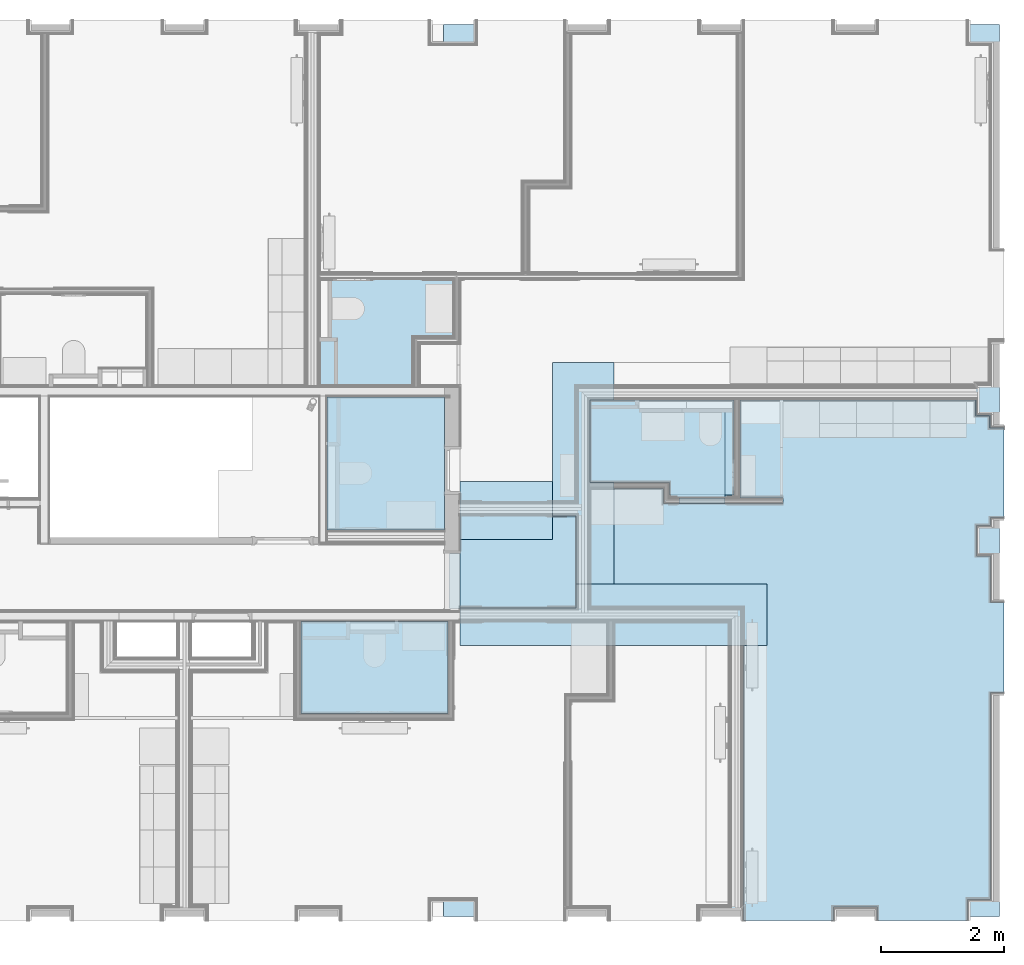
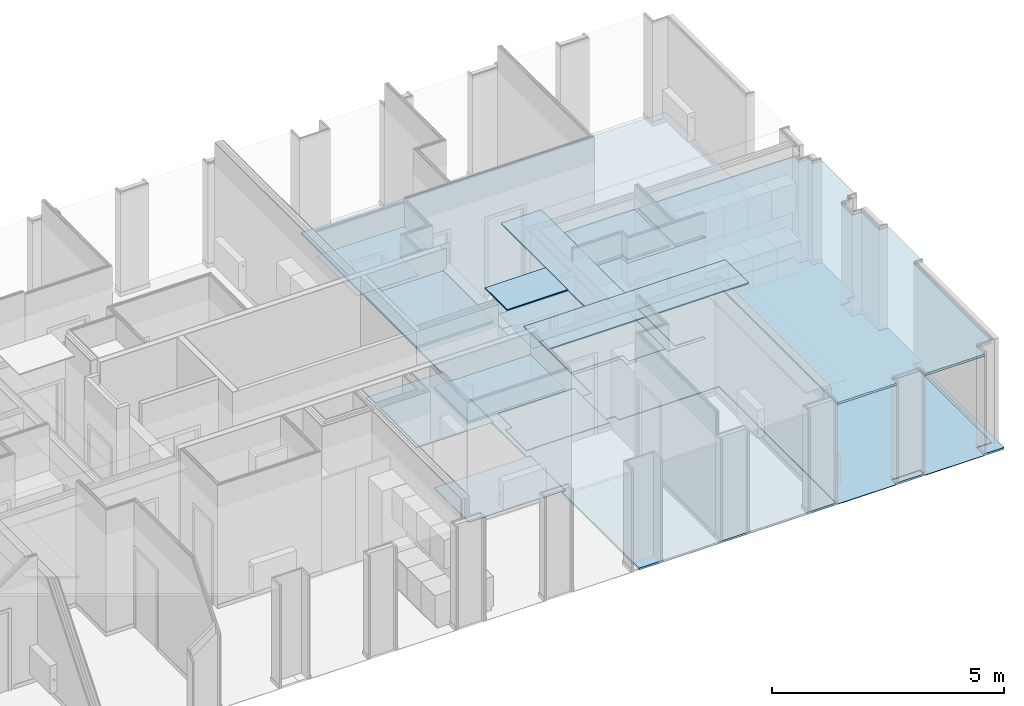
# One storey, part 47 of 65: 24 slabs.
"""IFC2X3 building model written with IfcOpenShell, lengths in metres."""

from ifc_helpers import new_model, entity, si_unit, converted_unit, derived_unit, money_unit, direction, frame, origin_with_axes, place, context, subcontext, project, spatial, faceted_brep, material, type_object, element, save


model = new_model("IFC2X3")

# Units and contexts
model_context = context("Model", 3, precision=1e-05, world=origin_with_axes(), true_north=direction((0.0, 1.0)))
body_context = subcontext(model_context, "Body", "Model", "MODEL_VIEW", scale=1.0)
ifc_project = project(units=[si_unit("LENGTHUNIT", "METRE"), si_unit("AREAUNIT", "SQUARE_METRE"), si_unit("VOLUMEUNIT", "CUBIC_METRE"), si_unit("ABSORBEDDOSEUNIT", "GRAY"), si_unit("AMOUNTOFSUBSTANCEUNIT", "MOLE"), si_unit("DOSEEQUIVALENTUNIT", "SIEVERT"), si_unit("ELECTRICCAPACITANCEUNIT", "FARAD"), si_unit("ELECTRICCHARGEUNIT", "COULOMB"), si_unit("ELECTRICCONDUCTANCEUNIT", "SIEMENS"), si_unit("ELECTRICCURRENTUNIT", "AMPERE"), si_unit("ELECTRICRESISTANCEUNIT", "OHM"), si_unit("ELECTRICVOLTAGEUNIT", "VOLT"), si_unit("ENERGYUNIT", "JOULE"), si_unit("FORCEUNIT", "NEWTON"), si_unit("FREQUENCYUNIT", "HERTZ"), si_unit("ILLUMINANCEUNIT", "LUX"), si_unit("INDUCTANCEUNIT", "HENRY"), si_unit("LUMINOUSFLUXUNIT", "LUMEN"), si_unit("LUMINOUSINTENSITYUNIT", "CANDELA"), si_unit("MAGNETICFLUXDENSITYUNIT", "TESLA"), si_unit("MAGNETICFLUXUNIT", "WEBER"), si_unit("MASSUNIT", "GRAM"), converted_unit("PLANEANGLEUNIT", "degree", entity("IfcReal", 0.0174532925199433), si_unit("PLANEANGLEUNIT", "RADIAN"), dimensions=[0, 0, 0, 0, 0, 0, 0]), si_unit("POWERUNIT", "WATT"), si_unit("PRESSUREUNIT", "PASCAL"), si_unit("RADIOACTIVITYUNIT", "BECQUEREL"), si_unit("SOLIDANGLEUNIT", "STERADIAN"), si_unit("THERMODYNAMICTEMPERATUREUNIT", "KELVIN"), si_unit("TIMEUNIT", "SECOND"), derived_unit("ACCELERATIONUNIT", [(si_unit("LENGTHUNIT", "METRE"), 1), (si_unit("TIMEUNIT", "SECOND"), -2)]), derived_unit("ANGULARVELOCITYUNIT", [(converted_unit("PLANEANGLEUNIT", "degree", entity("IfcReal", 0.0174532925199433), si_unit("PLANEANGLEUNIT", "RADIAN"), dimensions=[0, 0, 0, 0, 0, 0, 0]), 1), (si_unit("TIMEUNIT", "SECOND"), -1)]), derived_unit("CURVATUREUNIT", [(converted_unit("PLANEANGLEUNIT", "degree", entity("IfcReal", 0.0174532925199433), si_unit("PLANEANGLEUNIT", "RADIAN"), dimensions=[0, 0, 0, 0, 0, 0, 0]), 1), (si_unit("LENGTHUNIT", "METRE"), -1)]), derived_unit("DYNAMICVISCOSITYUNIT", [(si_unit("PRESSUREUNIT", "PASCAL"), 1), (si_unit("TIMEUNIT", "SECOND"), 1)]), derived_unit("HEATFLUXDENSITYUNIT", [(si_unit("POWERUNIT", "WATT"), 1), (si_unit("LENGTHUNIT", "METRE"), -2)]), derived_unit("HEATINGVALUEUNIT", [(si_unit("ENERGYUNIT", "JOULE"), 1), (si_unit("MASSUNIT", "GRAM"), -1)]), derived_unit("INTEGERCOUNTRATEUNIT", [(si_unit("TIMEUNIT", "SECOND"), -1)]), derived_unit("IONCONCENTRATIONUNIT", [(si_unit("MASSUNIT", "GRAM"), 1), (si_unit("VOLUMEUNIT", "CUBIC_METRE"), -1)]), derived_unit("ISOTHERMALMOISTURECAPACITYUNIT", [(si_unit("VOLUMEUNIT", "CUBIC_METRE"), 1), (si_unit("MASSUNIT", "GRAM"), -1)]), derived_unit("KINEMATICVISCOSITYUNIT", [(si_unit("AREAUNIT", "SQUARE_METRE"), 1), (si_unit("TIMEUNIT", "SECOND"), -1)]), derived_unit("LINEARFORCEUNIT", [(si_unit("FORCEUNIT", "NEWTON"), 1), (si_unit("LENGTHUNIT", "METRE"), -1)]), derived_unit("LINEARMOMENTUNIT", [(si_unit("FORCEUNIT", "NEWTON"), 1), (si_unit("LENGTHUNIT", "METRE"), -1)]), derived_unit("LINEARSTIFFNESSUNIT", [(si_unit("FORCEUNIT", "NEWTON"), 1), (si_unit("LENGTHUNIT", "METRE"), -1)]), derived_unit("LINEARVELOCITYUNIT", [(si_unit("LENGTHUNIT", "METRE"), 1), (si_unit("TIMEUNIT", "SECOND"), -1)]), derived_unit("LUMINOUSINTENSITYDISTRIBUTIONUNIT", [(si_unit("LUMINOUSINTENSITYUNIT", "CANDELA"), 1), (si_unit("LUMINOUSFLUXUNIT", "LUMEN"), -1)]), derived_unit("MASSDENSITYUNIT", [(si_unit("MASSUNIT", "GRAM"), 1), (si_unit("VOLUMEUNIT", "CUBIC_METRE"), -1)]), derived_unit("MASSFLOWRATEUNIT", [(si_unit("MASSUNIT", "GRAM"), 1), (si_unit("TIMEUNIT", "SECOND"), -1)]), derived_unit("MASSPERLENGTHUNIT", [(si_unit("MASSUNIT", "GRAM"), 1), (si_unit("LENGTHUNIT", "METRE"), -1)]), derived_unit("MODULUSOFELASTICITYUNIT", [(si_unit("FORCEUNIT", "NEWTON"), 1), (si_unit("AREAUNIT", "SQUARE_METRE"), -1)]), derived_unit("MODULUSOFLINEARSUBGRADEREACTIONUNIT", [(si_unit("FORCEUNIT", "NEWTON"), 1), (si_unit("LENGTHUNIT", "METRE"), -2)]), derived_unit("MODULUSOFROTATIONALSUBGRADEREACTIONUNIT", [(si_unit("FORCEUNIT", "NEWTON"), 1), (si_unit("LENGTHUNIT", "METRE"), 1)]), derived_unit("MODULUSOFSUBGRADEREACTIONUNIT", [(si_unit("FORCEUNIT", "NEWTON"), 1), (si_unit("VOLUMEUNIT", "CUBIC_METRE"), -1)]), derived_unit("MOISTUREDIFFUSIVITYUNIT", [(si_unit("VOLUMEUNIT", "CUBIC_METRE"), 1), (si_unit("TIMEUNIT", "SECOND"), -1)]), derived_unit("MOLECULARWEIGHTUNIT", [(si_unit("MASSUNIT", "GRAM"), 1), (si_unit("AMOUNTOFSUBSTANCEUNIT", "MOLE"), -1)]), derived_unit("PLANARFORCEUNIT", [(si_unit("FORCEUNIT", "NEWTON"), 1), (si_unit("LENGTHUNIT", "METRE"), -2)]), derived_unit("ROTATIONALFREQUENCYUNIT", [(si_unit("TIMEUNIT", "SECOND"), -1)]), derived_unit("ROTATIONALMASSUNIT", [(si_unit("MASSUNIT", "GRAM"), 1), (si_unit("LENGTHUNIT", "METRE"), 2)]), derived_unit("ROTATIONALSTIFFNESSUNIT", [(si_unit("FORCEUNIT", "NEWTON"), 1), (si_unit("LENGTHUNIT", "METRE"), 1), (converted_unit("PLANEANGLEUNIT", "degree", entity("IfcReal", 0.0174532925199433), si_unit("PLANEANGLEUNIT", "RADIAN"), dimensions=[0, 0, 0, 0, 0, 0, 0]), -1)]), derived_unit("SECTIONAREAINTEGRALUNIT", [(si_unit("LENGTHUNIT", "METRE"), 5)]), derived_unit("SECTIONMODULUSUNIT", [(si_unit("LENGTHUNIT", "METRE"), 3)]), derived_unit("SHEARMODULUSUNIT", [(si_unit("FORCEUNIT", "NEWTON"), 1), (si_unit("AREAUNIT", "SQUARE_METRE"), -1)]), derived_unit("SOUNDPOWERUNIT", [(si_unit("ENERGYUNIT", "JOULE"), 1), (si_unit("TIMEUNIT", "SECOND"), -1)]), derived_unit("SPECIFICHEATCAPACITYUNIT", [(si_unit("FORCEUNIT", "NEWTON"), 1), (si_unit("MASSUNIT", "GRAM"), -1), (si_unit("THERMODYNAMICTEMPERATUREUNIT", "KELVIN"), -1)]), derived_unit("TEMPERATUREGRADIENTUNIT", [(si_unit("THERMODYNAMICTEMPERATUREUNIT", "KELVIN"), 1), (si_unit("LENGTHUNIT", "METRE"), -1)]), derived_unit("THERMALADMITTANCEUNIT", [(si_unit("POWERUNIT", "WATT"), 1), (si_unit("AREAUNIT", "SQUARE_METRE"), -1), (si_unit("THERMODYNAMICTEMPERATUREUNIT", "KELVIN"), -1)]), derived_unit("THERMALCONDUCTANCEUNIT", [(si_unit("POWERUNIT", "WATT"), 1), (si_unit("LENGTHUNIT", "METRE"), -1), (si_unit("THERMODYNAMICTEMPERATUREUNIT", "KELVIN"), -1)]), derived_unit("THERMALEXPANSIONCOEFFICIENTUNIT", [(si_unit("THERMODYNAMICTEMPERATUREUNIT", "KELVIN"), -1)]), derived_unit("THERMALRESISTANCEUNIT", [(si_unit("AREAUNIT", "SQUARE_METRE"), 1), (si_unit("POWERUNIT", "WATT"), -1)]), derived_unit("THERMALTRANSMITTANCEUNIT", [(si_unit("POWERUNIT", "WATT"), 1), (si_unit("AREAUNIT", "SQUARE_METRE"), -1), (si_unit("THERMODYNAMICTEMPERATUREUNIT", "KELVIN"), -1)]), derived_unit("TORQUEUNIT", [(si_unit("FORCEUNIT", "NEWTON"), 1), (si_unit("LENGTHUNIT", "METRE"), 1)]), derived_unit("VAPORPERMEABILITYUNIT", [(si_unit("MASSUNIT", "GRAM"), 1), (si_unit("TIMEUNIT", "SECOND"), -1)]), derived_unit("VOLUMETRICFLOWRATEUNIT", [(si_unit("VOLUMEUNIT", "CUBIC_METRE"), 1), (si_unit("TIMEUNIT", "SECOND"), -1)]), derived_unit("WARPINGCONSTANTUNIT", [(si_unit("LENGTHUNIT", "METRE"), 6)]), derived_unit("WARPINGMOMENTUNIT", [(si_unit("FORCEUNIT", "NEWTON"), 1), (si_unit("LENGTHUNIT", "METRE"), 2)]), money_unit("GBP")], contexts=[model_context])

# Site, building, storey
site_placement = place(None, origin_with_axes())
site = spatial("IfcSite", under=ifc_project, at=site_placement, Name="Site", CompositionType="ELEMENT")
building_placement = place(site_placement, origin_with_axes())
building = spatial("IfcBuilding", under=site, at=building_placement, Name="Building01", CompositionType="ELEMENT")
storey_placement = place(building_placement, frame((0.0, 0.0, 8.64), z_axis=(0.0, 0.0, 1.0), x_axis=(1.0, 0.0, 0.0)))
storey = spatial("IfcBuildingStorey", under=building, at=storey_placement, Name="2F", CompositionType="ELEMENT", Elevation=8.64)

# Slabs
ifc_material_1 = material(Name="A_BSUK_CeilingSoffitFinishes_Suspended")
slab_type_1 = type_object("IfcSlabType", Name="A-FloorsSlabs A_BSUK_Slabs", PredefinedType="FLOOR")
placement = place(storey_placement, frame((0.0, 0.0, -8.64), z_axis=(0.0, 0.0, 1.0), x_axis=(1.0, 0.0, 0.0)))
element("IfcSlab", 1, at=placement, inside=storey, type_object=slab_type_1, material=ifc_material_1, Name="A-FloorsSlabs A_BSUK_Slabs", ObjectType="CompoundSlabLeaf", context=body_context, shape_type="Brep", body=[
    faceted_brep([(18.0, 6.705, 11.255), (18.0, 6.705, 11.27), (19.897661, 6.705, 11.27), (19.897661, 6.705, 11.255), (18.0, 5.205, 11.255), (18.0, 5.205, 11.27), (19.897661, 5.205, 11.255), (19.897661, 5.205, 11.27)], [[[0, 1, 2, 3]], [[4, 5, 1, 0]], [[6, 7, 5, 4]], [[3, 2, 7, 6]], [[1, 5, 7, 2]], [[3, 6, 4, 0]]]),
])
ifc_material_2 = material(Name="A_BSUK_InternalFinishes_FloorScreed")
element("IfcSlab", 2, at=placement, inside=storey, type_object=slab_type_1, material=ifc_material_2, Name="A-FloorsSlabs A_BSUK_Slabs", ObjectType="CompoundSlabLeaf", context=body_context, shape_type="Brep", body=[
    faceted_brep([(17.73, 14.73, 8.59), (17.73, 14.73, 8.64), (26.81, 14.73, 8.64), (26.81, 14.73, 8.59), (17.73, 0.17, 8.59), (17.73, 0.17, 8.64), (26.81, 0.17, 8.59), (26.81, 0.17, 8.64)], [[[0, 1, 2, 3]], [[4, 5, 1, 0]], [[6, 7, 5, 4]], [[3, 2, 7, 6]], [[1, 5, 7, 2]], [[3, 6, 4, 0]]]),
])
ifc_material_3 = material(Name="A_BSUK_ExpandedPolystyreneBoards")
element("IfcSlab", 3, at=placement, inside=storey, type_object=slab_type_1, material=ifc_material_3, Name="A-FloorsSlabs A_BSUK_Slabs", ObjectType="CompoundSlabLeaf", context=body_context, shape_type="Brep", body=[
    faceted_brep([(18.0, 6.69, 8.64), (18.0, 6.69, 8.643), (19.897661, 6.69, 8.643), (19.897661, 6.69, 8.64), (18.0, 5.205, 8.64), (18.0, 5.205, 8.643), (19.897661, 5.205, 8.64), (19.897661, 5.205, 8.643)], [[[0, 1, 2, 3]], [[4, 5, 1, 0]], [[6, 7, 5, 4]], [[3, 2, 7, 6]], [[1, 5, 7, 2]], [[3, 6, 4, 0]]]),
])
element("IfcSlab", 4, at=placement, inside=storey, type_object=slab_type_1, material=ifc_material_3, Name="A-FloorsSlabs A_BSUK_Slabs", ObjectType="CompoundSlabLeaf", context=body_context, shape_type="Brep", body=[
    faceted_brep([(20.122661, 6.357147, 8.64), (20.122661, 6.357147, 8.643), (20.122661, 8.595, 8.643), (20.122661, 8.595, 8.64), (19.897661, 6.357147, 8.64), (19.897661, 6.357147, 8.643), (19.897661, 5.357147, 8.64), (19.897661, 5.357147, 8.643), (20.122661, 5.357147, 8.64), (20.122661, 5.357147, 8.643), (20.122661, 5.205, 8.64), (20.122661, 5.205, 8.643), (22.625, 5.205, 8.64), (22.625, 5.205, 8.643), (22.625, 0.1, 8.64), (22.625, 0.1, 8.643), (24.095, 0.1, 8.64), (24.095, 0.1, 8.643), (24.095, 0.318, 8.64), (24.095, 0.318, 8.643), (24.815, 0.318, 8.64), (24.815, 0.318, 8.643), (24.815, 0.1, 8.64), (24.815, 0.1, 8.643), (26.285, 0.1, 8.64), (26.285, 0.1, 8.643), (26.285, 0.448, 8.64), (26.285, 0.448, 8.643), (26.662, 0.448, 8.64), (26.662, 0.448, 8.643), (26.662, 3.82218, 8.64), (26.662, 3.82218, 8.643), (26.88, 3.82218, 8.64), (26.88, 3.82218, 8.643), (26.88, 5.29218, 8.64), (26.88, 5.29218, 8.643), (26.662, 5.29218, 8.64), (26.662, 5.29218, 8.643), (26.662, 6.052, 8.64), (26.662, 6.052, 8.643), (26.432, 6.052, 8.64), (26.432, 6.052, 8.643), (26.432, 6.548, 8.64), (26.432, 6.548, 8.643), (26.662, 6.548, 8.64), (26.662, 6.548, 8.643), (26.662, 6.682326, 8.64), (26.662, 6.682326, 8.643), (26.88, 6.682326, 8.64), (26.88, 6.682326, 8.643), (26.88, 8.152326, 8.64), (26.88, 8.152326, 8.643), (26.662, 8.152326, 8.64), (26.662, 8.152326, 8.643), (26.662, 8.352, 8.64), (26.662, 8.352, 8.643), (26.432, 8.352, 8.64), (26.432, 8.352, 8.643), (26.432, 8.595, 8.64), (26.432, 8.595, 8.643)], [[[0, 1, 2, 3]], [[4, 5, 1, 0]], [[6, 7, 5, 4]], [[8, 9, 7, 6]], [[10, 11, 9, 8]], [[12, 13, 11, 10]], [[14, 15, 13, 12]], [[16, 17, 15, 14]], [[18, 19, 17, 16]], [[20, 21, 19, 18]], [[22, 23, 21, 20]], [[24, 25, 23, 22]], [[26, 27, 25, 24]], [[28, 29, 27, 26]], [[30, 31, 29, 28]], [[32, 33, 31, 30]], [[34, 35, 33, 32]], [[36, 37, 35, 34]], [[38, 39, 37, 36]], [[40, 41, 39, 38]], [[42, 43, 41, 40]], [[44, 45, 43, 42]], [[46, 47, 45, 44]], [[48, 49, 47, 46]], [[50, 51, 49, 48]], [[52, 53, 51, 50]], [[54, 55, 53, 52]], [[56, 57, 55, 54]], [[58, 59, 57, 56]], [[3, 2, 59, 58]], [[1, 5, 7, 9, 11, 13, 15, 17, 19, 21, 23, 25, 27, 29, 31, 33, 35, 37, 39, 41, 43, 45, 47, 49, 51, 53, 55, 57, 59, 2]], [[3, 58, 56, 54, 52, 50, 48, 46, 44, 42, 40, 38, 36, 34, 32, 30, 28, 26, 24, 22, 20, 18, 16, 14, 12, 10, 8, 6, 4, 0]]]),
])
ifc_material_4 = material(Name="A_BSUK_Ceramic_FloorTiles")
element("IfcSlab", 5, at=placement, inside=storey, type_object=slab_type_1, material=ifc_material_4, Name="A-FloorsSlabs A_BSUK_Slabs", ObjectType="CompoundSlabLeaf", context=body_context, shape_type="Brep", body=[
    faceted_brep([(15.83, 6.475, 8.643), (15.83, 6.475, 8.655), (15.83, 8.65, 8.655), (15.83, 8.65, 8.643), (17.75, 6.475, 8.643), (17.75, 6.475, 8.655), (17.75, 8.65, 8.643), (17.75, 8.65, 8.655)], [[[0, 1, 2, 3]], [[4, 5, 1, 0]], [[6, 7, 5, 4]], [[3, 2, 7, 6]], [[1, 5, 7, 2]], [[3, 6, 4, 0]]]),
])
ifc_material_5 = material(Name="A_BSUK_Parquet_Floor")
element("IfcSlab", 6, at=placement, inside=storey, type_object=slab_type_1, material=ifc_material_5, Name="A-FloorsSlabs A_BSUK_Slabs", ObjectType="CompoundSlabLeaf", context=body_context, shape_type="Brep", body=[
    faceted_brep([(19.897661, 5.357147, 8.643), (19.897661, 5.357147, 8.655), (19.897661, 6.357147, 8.655), (19.897661, 6.357147, 8.643), (20.122661, 5.357147, 8.643), (20.122661, 5.357147, 8.655), (20.122661, 5.205, 8.643), (20.122661, 5.205, 8.655), (22.625, 5.205, 8.643), (22.625, 5.205, 8.655), (22.625, 0.1, 8.643), (22.625, 0.1, 8.655), (24.095, 0.1, 8.643), (24.095, 0.1, 8.655), (24.095, 0.318, 8.643), (24.095, 0.318, 8.655), (24.815, 0.318, 8.643), (24.815, 0.318, 8.655), (24.815, 0.1, 8.643), (24.815, 0.1, 8.655), (26.285, 0.1, 8.643), (26.285, 0.1, 8.655), (26.285, 0.448, 8.643), (26.285, 0.448, 8.655), (26.662, 0.448, 8.643), (26.662, 0.448, 8.655), (26.662, 3.82218, 8.643), (26.662, 3.82218, 8.655), (26.88, 3.82218, 8.643), (26.88, 3.82218, 8.655), (26.88, 5.29218, 8.643), (26.88, 5.29218, 8.655), (26.662, 5.29218, 8.643), (26.662, 5.29218, 8.655), (26.662, 6.052, 8.643), (26.662, 6.052, 8.655), (26.432, 6.052, 8.643), (26.432, 6.052, 8.655), (26.432, 6.548, 8.643), (26.432, 6.548, 8.655), (26.662, 6.548, 8.643), (26.662, 6.548, 8.655), (26.662, 6.682326, 8.643), (26.662, 6.682326, 8.655), (26.88, 6.682326, 8.643), (26.88, 6.682326, 8.655), (26.88, 8.152326, 8.643), (26.88, 8.152326, 8.655), (26.662, 8.152326, 8.643), (26.662, 8.152326, 8.655), (26.662, 8.352, 8.643), (26.662, 8.352, 8.655), (26.432, 8.352, 8.643), (26.432, 8.352, 8.655), (26.432, 8.595, 8.643), (26.432, 8.595, 8.655), (22.571661, 8.595, 8.643), (22.571661, 8.595, 8.655), (22.571661, 7.0, 8.643), (22.571661, 7.0, 8.655), (23.271529, 7.0, 8.643), (23.271529, 7.0, 8.655), (23.271529, 6.905, 8.643), (23.271529, 6.905, 8.655), (22.326661, 6.905, 8.643), (22.326661, 6.905, 8.655), (22.326661, 7.0, 8.643), (22.326661, 7.0, 8.655), (21.576661, 7.0, 8.643), (21.576661, 7.0, 8.655), (21.576661, 6.905, 8.643), (21.576661, 6.905, 8.655), (21.322661, 6.905, 8.643), (21.322661, 6.905, 8.655), (21.322661, 7.155, 8.643), (21.322661, 7.155, 8.655), (20.122661, 7.155, 8.643), (20.122661, 7.155, 8.655), (20.122661, 6.905, 8.643), (20.122661, 6.905, 8.655), (20.122661, 6.357147, 8.643), (20.122661, 6.357147, 8.655)], [[[0, 1, 2, 3]], [[4, 5, 1, 0]], [[6, 7, 5, 4]], [[8, 9, 7, 6]], [[10, 11, 9, 8]], [[12, 13, 11, 10]], [[14, 15, 13, 12]], [[16, 17, 15, 14]], [[18, 19, 17, 16]], [[20, 21, 19, 18]], [[22, 23, 21, 20]], [[24, 25, 23, 22]], [[26, 27, 25, 24]], [[28, 29, 27, 26]], [[30, 31, 29, 28]], [[32, 33, 31, 30]], [[34, 35, 33, 32]], [[36, 37, 35, 34]], [[38, 39, 37, 36]], [[40, 41, 39, 38]], [[42, 43, 41, 40]], [[44, 45, 43, 42]], [[46, 47, 45, 44]], [[48, 49, 47, 46]], [[50, 51, 49, 48]], [[52, 53, 51, 50]], [[54, 55, 53, 52]], [[56, 57, 55, 54]], [[58, 59, 57, 56]], [[60, 61, 59, 58]], [[62, 63, 61, 60]], [[64, 65, 63, 62]], [[66, 67, 65, 64]], [[68, 69, 67, 66]], [[70, 71, 69, 68]], [[72, 73, 71, 70]], [[74, 75, 73, 72]], [[76, 77, 75, 74]], [[78, 79, 77, 76]], [[80, 81, 79, 78]], [[3, 2, 81, 80]], [[1, 5, 7, 9, 11, 13, 15, 17, 19, 21, 23, 25, 27, 29, 31, 33, 35, 37, 39, 41, 43, 45, 47, 49, 51, 53, 55, 57, 59, 61, 63, 65, 67, 69, 71, 73, 75, 77, 79, 81, 2]], [[3, 80, 78, 76, 74, 72, 70, 68, 66, 64, 62, 60, 58, 56, 54, 52, 50, 48, 46, 44, 42, 40, 38, 36, 34, 32, 30, 28, 26, 24, 22, 20, 18, 16, 14, 12, 10, 8, 6, 4, 0]]]),
])
element("IfcSlab", 7, at=placement, inside=storey, type_object=slab_type_1, material=ifc_material_4, Name="A-FloorsSlabs A_BSUK_Slabs", ObjectType="CompoundSlabLeaf", context=body_context, shape_type="Brep", body=[
    faceted_brep([(20.122661, 8.595, 8.643), (20.122661, 8.595, 8.655), (22.326661, 8.595, 8.655), (22.326661, 8.595, 8.643), (20.122661, 7.25, 8.643), (20.122661, 7.25, 8.655), (21.417661, 7.25, 8.643), (21.417661, 7.25, 8.655), (21.417661, 7.0, 8.643), (21.417661, 7.0, 8.655), (22.326661, 7.0, 8.643), (22.326661, 7.0, 8.655)], [[[0, 1, 2, 3]], [[4, 5, 1, 0]], [[6, 7, 5, 4]], [[8, 9, 7, 6]], [[10, 11, 9, 8]], [[3, 2, 11, 10]], [[1, 5, 7, 9, 11, 2]], [[3, 10, 8, 6, 4, 0]]]),
])
element("IfcSlab", 8, at=placement, inside=storey, type_object=slab_type_1, material=ifc_material_4, Name="A-FloorsSlabs A_BSUK_Slabs", ObjectType="CompoundSlabLeaf", context=body_context, shape_type="Brep", body=[
    faceted_brep([(15.4075, 4.98, 8.643), (15.4075, 4.98, 8.655), (17.8075, 4.98, 8.655), (17.8075, 4.98, 8.643), (15.4075, 4.259428, 8.643), (15.4075, 4.259428, 8.655), (15.4075, 3.48, 8.643), (15.4075, 3.48, 8.655), (17.8075, 3.48, 8.643), (17.8075, 3.48, 8.655)], [[[0, 1, 2, 3]], [[4, 5, 1, 0]], [[6, 7, 5, 4]], [[8, 9, 7, 6]], [[3, 2, 9, 8]], [[1, 5, 7, 9, 2]], [[3, 8, 6, 4, 0]]]),
])
ifc_material_6 = material(Name="A_BSUK_Carpet-Pile")
element("IfcSlab", 9, at=placement, inside=storey, type_object=slab_type_1, material=ifc_material_6, Name="A-FloorsSlabs A_BSUK_Slabs", ObjectType="CompoundSlabLeaf", context=body_context, shape_type="Brep", body=[
    faceted_brep([(18.0, 6.705, 8.643), (18.0, 6.705, 8.655), (19.897661, 6.705, 8.655), (19.897661, 6.705, 8.643), (18.0, 6.092, 8.643), (18.0, 6.092, 8.655), (17.83, 6.092, 8.643), (17.83, 6.092, 8.655), (17.83, 5.192, 8.643), (17.83, 5.192, 8.655), (18.0, 5.192, 8.643), (18.0, 5.192, 8.655), (18.0, 5.205, 8.643), (18.0, 5.205, 8.655), (19.897661, 5.205, 8.643), (19.897661, 5.205, 8.655)], [[[0, 1, 2, 3]], [[4, 5, 1, 0]], [[6, 7, 5, 4]], [[8, 9, 7, 6]], [[10, 11, 9, 8]], [[12, 13, 11, 10]], [[14, 15, 13, 12]], [[3, 2, 15, 14]], [[1, 5, 7, 9, 11, 13, 15, 2]], [[3, 14, 12, 10, 8, 6, 4, 0]]]),
])
element("IfcSlab", 10, at=placement, inside=storey, type_object=slab_type_1, material=ifc_material_1, Name="A-FloorsSlabs A_BSUK_Slabs", ObjectType="CompoundSlabLeaf", context=body_context, shape_type="Brep", body=[
    faceted_brep([(15.83, 6.475, 11.255), (15.83, 6.475, 11.27), (15.83, 8.65, 11.27), (15.83, 8.65, 11.255), (17.75, 6.475, 11.255), (17.75, 6.475, 11.27), (17.75, 8.65, 11.255), (17.75, 8.65, 11.27)], [[[0, 1, 2, 3]], [[4, 5, 1, 0]], [[6, 7, 5, 4]], [[3, 2, 7, 6]], [[1, 5, 7, 2]], [[3, 6, 4, 0]]]),
])
element("IfcSlab", 11, at=placement, inside=storey, type_object=slab_type_1, material=ifc_material_1, Name="A-FloorsSlabs A_BSUK_Slabs", ObjectType="CompoundSlabLeaf", context=body_context, shape_type="Brep", body=[
    faceted_brep([(15.708132, 10.57, 11.255), (15.708132, 10.57, 11.27), (17.905, 10.57, 11.27), (17.905, 10.57, 11.255), (15.708132, 8.82, 11.255), (15.708132, 8.82, 11.27), (17.238132, 8.82, 11.255), (17.238132, 8.82, 11.27), (17.238132, 9.62, 11.255), (17.238132, 9.62, 11.27), (17.905, 9.62, 11.255), (17.905, 9.62, 11.27)], [[[0, 1, 2, 3]], [[4, 5, 1, 0]], [[6, 7, 5, 4]], [[8, 9, 7, 6]], [[10, 11, 9, 8]], [[3, 2, 11, 10]], [[1, 5, 7, 9, 11, 2]], [[3, 10, 8, 6, 4, 0]]]),
])
element("IfcSlab", 12, at=placement, inside=storey, type_object=slab_type_1, material=ifc_material_1, Name="A-FloorsSlabs A_BSUK_Slabs", ObjectType="CompoundSlabLeaf", context=body_context, shape_type="Brep", body=[
    faceted_brep([(20.122661, 5.457147, 11.255), (20.122661, 5.457147, 11.27), (20.122661, 6.457147, 11.27), (20.122661, 6.457147, 11.255), (20.122661, 5.205, 11.255), (20.122661, 5.205, 11.27), (22.625, 5.205, 11.255), (22.625, 5.205, 11.27), (22.625, 0.1, 11.255), (22.625, 0.1, 11.27), (24.095, 0.1, 11.255), (24.095, 0.1, 11.27), (24.095, 0.318, 11.255), (24.095, 0.318, 11.27), (24.815, 0.318, 11.255), (24.815, 0.318, 11.27), (24.815, 0.1, 11.255), (24.815, 0.1, 11.27), (26.285, 0.1, 11.255), (26.285, 0.1, 11.27), (26.285, 0.448, 11.255), (26.285, 0.448, 11.27), (26.662, 0.448, 11.255), (26.662, 0.448, 11.27), (26.662, 3.82218, 11.255), (26.662, 3.82218, 11.27), (26.88, 3.82218, 11.255), (26.88, 3.82218, 11.27), (26.88, 5.29218, 11.255), (26.88, 5.29218, 11.27), (26.662, 5.29218, 11.255), (26.662, 5.29218, 11.27), (26.662, 6.052, 11.255), (26.662, 6.052, 11.27), (26.432, 6.052, 11.255), (26.432, 6.052, 11.27), (26.432, 6.548, 11.255), (26.432, 6.548, 11.27), (26.662, 6.548, 11.255), (26.662, 6.548, 11.27), (26.662, 6.682326, 11.255), (26.662, 6.682326, 11.27), (26.88, 6.682326, 11.255), (26.88, 6.682326, 11.27), (26.88, 8.137326, 11.255), (26.88, 8.137326, 11.27), (26.647, 8.137326, 11.255), (26.647, 8.137326, 11.27), (26.647, 8.337, 11.255), (26.647, 8.337, 11.27), (26.417, 8.337, 11.255), (26.417, 8.337, 11.27), (26.417, 8.595, 11.255), (26.417, 8.595, 11.27), (22.571661, 8.595, 11.255), (22.571661, 8.595, 11.27), (22.571661, 7.0, 11.255), (22.571661, 7.0, 11.27), (23.271529, 7.0, 11.255), (23.271529, 7.0, 11.27), (23.271529, 6.955, 11.255), (23.271529, 6.955, 11.27), (23.271529, 6.905, 11.255), (23.271529, 6.905, 11.27), (21.322661, 6.905, 11.255), (21.322661, 6.905, 11.27), (21.322661, 7.155, 11.255), (21.322661, 7.155, 11.27), (20.122661, 7.155, 11.255), (20.122661, 7.155, 11.27)], [[[0, 1, 2, 3]], [[4, 5, 1, 0]], [[6, 7, 5, 4]], [[8, 9, 7, 6]], [[10, 11, 9, 8]], [[12, 13, 11, 10]], [[14, 15, 13, 12]], [[16, 17, 15, 14]], [[18, 19, 17, 16]], [[20, 21, 19, 18]], [[22, 23, 21, 20]], [[24, 25, 23, 22]], [[26, 27, 25, 24]], [[28, 29, 27, 26]], [[30, 31, 29, 28]], [[32, 33, 31, 30]], [[34, 35, 33, 32]], [[36, 37, 35, 34]], [[38, 39, 37, 36]], [[40, 41, 39, 38]], [[42, 43, 41, 40]], [[44, 45, 43, 42]], [[46, 47, 45, 44]], [[48, 49, 47, 46]], [[50, 51, 49, 48]], [[52, 53, 51, 50]], [[54, 55, 53, 52]], [[56, 57, 55, 54]], [[58, 59, 57, 56]], [[60, 61, 59, 58]], [[62, 63, 61, 60]], [[64, 65, 63, 62]], [[66, 67, 65, 64]], [[68, 69, 67, 66]], [[3, 2, 69, 68]], [[1, 5, 7, 9, 11, 13, 15, 17, 19, 21, 23, 25, 27, 29, 31, 33, 35, 37, 39, 41, 43, 45, 47, 49, 51, 53, 55, 57, 59, 61, 63, 65, 67, 69, 2]], [[3, 68, 66, 64, 62, 60, 58, 56, 54, 52, 50, 48, 46, 44, 42, 40, 38, 36, 34, 32, 30, 28, 26, 24, 22, 20, 18, 16, 14, 12, 10, 8, 6, 4, 0]]]),
])
element("IfcSlab", 13, at=placement, inside=storey, type_object=slab_type_1, material=ifc_material_1, Name="A-FloorsSlabs A_BSUK_Slabs", ObjectType="CompoundSlabLeaf", context=body_context, shape_type="Brep", body=[
    faceted_brep([(20.122661, 8.595, 11.255), (20.122661, 8.595, 11.27), (22.476661, 8.595, 11.27), (22.476661, 8.595, 11.255), (20.122661, 7.25, 11.255), (20.122661, 7.25, 11.27), (21.417661, 7.25, 11.255), (21.417661, 7.25, 11.27), (21.417661, 7.05, 11.255), (21.417661, 7.05, 11.27), (22.476661, 7.05, 11.255), (22.476661, 7.05, 11.27)], [[[0, 1, 2, 3]], [[4, 5, 1, 0]], [[6, 7, 5, 4]], [[8, 9, 7, 6]], [[10, 11, 9, 8]], [[3, 2, 11, 10]], [[1, 5, 7, 9, 11, 2]], [[3, 10, 8, 6, 4, 0]]]),
])
element("IfcSlab", 14, at=placement, inside=storey, type_object=slab_type_1, material=ifc_material_1, Name="A-FloorsSlabs A_BSUK_Slabs", ObjectType="CompoundSlabLeaf", context=body_context, shape_type="Brep", body=[
    faceted_brep([(15.4075, 4.98, 11.255), (15.4075, 4.98, 11.27), (17.8075, 4.98, 11.27), (17.8075, 4.98, 11.255), (15.4075, 4.259428, 11.255), (15.4075, 4.259428, 11.27), (15.4075, 3.48, 11.255), (15.4075, 3.48, 11.27), (17.8075, 3.48, 11.255), (17.8075, 3.48, 11.27)], [[[0, 1, 2, 3]], [[4, 5, 1, 0]], [[6, 7, 5, 4]], [[8, 9, 7, 6]], [[3, 2, 9, 8]], [[1, 5, 7, 9, 2]], [[3, 8, 6, 4, 0]]]),
])
element("IfcSlab", 15, at=placement, inside=storey, type_object=slab_type_1, material=ifc_material_1, Name="A-FloorsSlabs A_BSUK_Slabs", ObjectType="CompoundSlabLeaf", context=body_context, shape_type="Brep", body=[
    faceted_brep([(19.510161, 5.593, 11.605), (19.510161, 5.593, 11.62), (19.510161, 9.2075, 11.62), (19.510161, 9.2075, 11.605), (20.510161, 5.593, 11.605), (20.510161, 5.593, 11.62), (20.510161, 9.2075, 11.605), (20.510161, 9.2075, 11.62)], [[[0, 1, 2, 3]], [[4, 5, 1, 0]], [[6, 7, 5, 4]], [[3, 2, 7, 6]], [[1, 5, 7, 2]], [[3, 6, 4, 0]]]),
])
element("IfcSlab", 16, at=placement, inside=storey, type_object=slab_type_1, material=ifc_material_1, Name="A-FloorsSlabs A_BSUK_Slabs", ObjectType="CompoundSlabLeaf", context=body_context, shape_type="Brep", body=[
    faceted_brep([(18.0, 4.593, 11.605), (18.0, 4.593, 11.62), (18.0, 5.593, 11.62), (18.0, 5.593, 11.605), (23.0125, 4.593, 11.605), (23.0125, 4.593, 11.62), (23.0125, 5.593, 11.605), (23.0125, 5.593, 11.62)], [[[0, 1, 2, 3]], [[4, 5, 1, 0]], [[6, 7, 5, 4]], [[3, 2, 7, 6]], [[1, 5, 7, 2]], [[3, 6, 4, 0]]]),
])
element("IfcSlab", 17, at=placement, inside=storey, type_object=slab_type_1, material=ifc_material_1, Name="A-FloorsSlabs A_BSUK_Slabs", ObjectType="CompoundSlabLeaf", context=body_context, shape_type="Brep", body=[
    faceted_brep([(18.0, 6.3175, 11.605), (18.0, 6.3175, 11.62), (18.0, 7.27, 11.62), (18.0, 7.27, 11.605), (19.510161, 6.3175, 11.605), (19.510161, 6.3175, 11.62), (19.510161, 7.27, 11.605), (19.510161, 7.27, 11.62)], [[[0, 1, 2, 3]], [[4, 5, 1, 0]], [[6, 7, 5, 4]], [[3, 2, 7, 6]], [[1, 5, 7, 2]], [[3, 6, 4, 0]]]),
])
element("IfcSlab", 18, at=placement, inside=storey, type_object=slab_type_1, material=ifc_material_1, Name="A-FloorsSlabs A_BSUK_Slabs", ObjectType="CompoundSlabLeaf", context=body_context, shape_type="Brep", body=[
    faceted_brep([(19.510161, 5.593, 11.59), (19.510161, 5.593, 11.605), (19.510161, 9.2075, 11.605), (19.510161, 9.2075, 11.59), (20.510161, 5.593, 11.59), (20.510161, 5.593, 11.605), (20.510161, 9.2075, 11.59), (20.510161, 9.2075, 11.605)], [[[0, 1, 2, 3]], [[4, 5, 1, 0]], [[6, 7, 5, 4]], [[3, 2, 7, 6]], [[1, 5, 7, 2]], [[3, 6, 4, 0]]]),
])
element("IfcSlab", 19, at=placement, inside=storey, type_object=slab_type_1, material=ifc_material_1, Name="A-FloorsSlabs A_BSUK_Slabs", ObjectType="CompoundSlabLeaf", context=body_context, shape_type="Brep", body=[
    faceted_brep([(18.0, 4.593, 11.59), (18.0, 4.593, 11.605), (18.0, 5.593, 11.605), (18.0, 5.593, 11.59), (23.0125, 4.593, 11.59), (23.0125, 4.593, 11.605), (23.0125, 5.593, 11.59), (23.0125, 5.593, 11.605)], [[[0, 1, 2, 3]], [[4, 5, 1, 0]], [[6, 7, 5, 4]], [[3, 2, 7, 6]], [[1, 5, 7, 2]], [[3, 6, 4, 0]]]),
])
element("IfcSlab", 20, at=placement, inside=storey, type_object=slab_type_1, material=ifc_material_1, Name="A-FloorsSlabs A_BSUK_Slabs", ObjectType="CompoundSlabLeaf", context=body_context, shape_type="Brep", body=[
    faceted_brep([(18.0, 6.3175, 11.59), (18.0, 6.3175, 11.605), (18.0, 7.27, 11.605), (18.0, 7.27, 11.59), (19.510161, 6.3175, 11.59), (19.510161, 6.3175, 11.605), (19.510161, 7.27, 11.59), (19.510161, 7.27, 11.605)], [[[0, 1, 2, 3]], [[4, 5, 1, 0]], [[6, 7, 5, 4]], [[3, 2, 7, 6]], [[1, 5, 7, 2]], [[3, 6, 4, 0]]]),
])
slab_type_2 = type_object("IfcSlabType", Name="A-FloorsSlabs A_BSUK_ExpandedPolystyreneBoards", PredefinedType="FLOOR")
element("IfcSlab", 21, at=placement, inside=storey, type_object=slab_type_2, material=ifc_material_3, Name="A-FloorsSlabs A_BSUK_ExpandedPolystyreneBoards", ObjectType="CompoundSlabLeaf", context=body_context, shape_type="Brep", body=[
    faceted_brep([(15.83, 6.475, 11.27), (15.83, 6.475, 11.32), (15.83, 8.65, 11.32), (15.83, 8.65, 11.27), (17.75, 6.475, 11.27), (17.75, 6.475, 11.32), (17.75, 8.65, 11.27), (17.75, 8.65, 11.32)], [[[0, 1, 2, 3]], [[4, 5, 1, 0]], [[6, 7, 5, 4]], [[3, 2, 7, 6]], [[1, 5, 7, 2]], [[3, 6, 4, 0]]]),
])
element("IfcSlab", 22, at=placement, inside=storey, type_object=slab_type_2, material=ifc_material_3, Name="A-FloorsSlabs A_BSUK_ExpandedPolystyreneBoards", ObjectType="CompoundSlabLeaf", context=body_context, shape_type="Brep", body=[
    faceted_brep([(20.122661, 5.457147, 11.27), (20.122661, 5.457147, 11.32), (20.122661, 6.457147, 11.32), (20.122661, 6.457147, 11.27), (20.122661, 5.205, 11.27), (20.122661, 5.205, 11.32), (22.625, 5.205, 11.27), (22.625, 5.205, 11.32), (22.625, 0.1, 11.27), (22.625, 0.1, 11.32), (24.095, 0.1, 11.27), (24.095, 0.1, 11.32), (24.095, 0.318, 11.27), (24.095, 0.318, 11.32), (24.815, 0.318, 11.27), (24.815, 0.318, 11.32), (24.815, 0.1, 11.27), (24.815, 0.1, 11.32), (26.285, 0.1, 11.27), (26.285, 0.1, 11.32), (26.285, 0.448, 11.27), (26.285, 0.448, 11.32), (26.662, 0.448, 11.27), (26.662, 0.448, 11.32), (26.662, 3.82218, 11.27), (26.662, 3.82218, 11.32), (26.88, 3.82218, 11.27), (26.88, 3.82218, 11.32), (26.88, 5.29218, 11.27), (26.88, 5.29218, 11.32), (26.662, 5.29218, 11.27), (26.662, 5.29218, 11.32), (26.662, 6.052, 11.27), (26.662, 6.052, 11.32), (26.432, 6.052, 11.27), (26.432, 6.052, 11.32), (26.432, 6.548, 11.27), (26.432, 6.548, 11.32), (26.662, 6.548, 11.27), (26.662, 6.548, 11.32), (26.662, 6.682326, 11.27), (26.662, 6.682326, 11.32), (26.88, 6.682326, 11.27), (26.88, 6.682326, 11.32), (26.88, 8.152326, 11.27), (26.88, 8.152326, 11.32), (26.662, 8.152326, 11.27), (26.662, 8.152326, 11.32), (26.662, 8.352, 11.27), (26.662, 8.352, 11.32), (26.432, 8.352, 11.27), (26.432, 8.352, 11.32), (26.432, 8.595, 11.27), (26.432, 8.595, 11.32), (22.571661, 8.595, 11.27), (22.571661, 8.595, 11.32), (22.571661, 7.0, 11.27), (22.571661, 7.0, 11.32), (23.271529, 7.0, 11.27), (23.271529, 7.0, 11.32), (23.271529, 6.955, 11.27), (23.271529, 6.955, 11.32), (23.271529, 6.905, 11.27), (23.271529, 6.905, 11.32), (21.322661, 6.905, 11.27), (21.322661, 6.905, 11.32), (21.322661, 7.155, 11.27), (21.322661, 7.155, 11.32), (20.122661, 7.155, 11.27), (20.122661, 7.155, 11.32)], [[[0, 1, 2, 3]], [[4, 5, 1, 0]], [[6, 7, 5, 4]], [[8, 9, 7, 6]], [[10, 11, 9, 8]], [[12, 13, 11, 10]], [[14, 15, 13, 12]], [[16, 17, 15, 14]], [[18, 19, 17, 16]], [[20, 21, 19, 18]], [[22, 23, 21, 20]], [[24, 25, 23, 22]], [[26, 27, 25, 24]], [[28, 29, 27, 26]], [[30, 31, 29, 28]], [[32, 33, 31, 30]], [[34, 35, 33, 32]], [[36, 37, 35, 34]], [[38, 39, 37, 36]], [[40, 41, 39, 38]], [[42, 43, 41, 40]], [[44, 45, 43, 42]], [[46, 47, 45, 44]], [[48, 49, 47, 46]], [[50, 51, 49, 48]], [[52, 53, 51, 50]], [[54, 55, 53, 52]], [[56, 57, 55, 54]], [[58, 59, 57, 56]], [[60, 61, 59, 58]], [[62, 63, 61, 60]], [[64, 65, 63, 62]], [[66, 67, 65, 64]], [[68, 69, 67, 66]], [[3, 2, 69, 68]], [[1, 5, 7, 9, 11, 13, 15, 17, 19, 21, 23, 25, 27, 29, 31, 33, 35, 37, 39, 41, 43, 45, 47, 49, 51, 53, 55, 57, 59, 61, 63, 65, 67, 69, 2]], [[3, 68, 66, 64, 62, 60, 58, 56, 54, 52, 50, 48, 46, 44, 42, 40, 38, 36, 34, 32, 30, 28, 26, 24, 22, 20, 18, 16, 14, 12, 10, 8, 6, 4, 0]]]),
])
element("IfcSlab", 23, at=placement, inside=storey, type_object=slab_type_2, material=ifc_material_3, Name="A-FloorsSlabs A_BSUK_ExpandedPolystyreneBoards", ObjectType="CompoundSlabLeaf", context=body_context, shape_type="Brep", body=[
    faceted_brep([(20.122661, 8.595, 11.27), (20.122661, 8.595, 11.32), (22.476661, 8.595, 11.32), (22.476661, 8.595, 11.27), (20.122661, 7.25, 11.27), (20.122661, 7.25, 11.32), (21.417661, 7.25, 11.27), (21.417661, 7.25, 11.32), (21.417661, 7.05, 11.27), (21.417661, 7.05, 11.32), (22.476661, 7.05, 11.27), (22.476661, 7.05, 11.32)], [[[0, 1, 2, 3]], [[4, 5, 1, 0]], [[6, 7, 5, 4]], [[8, 9, 7, 6]], [[10, 11, 9, 8]], [[3, 2, 11, 10]], [[1, 5, 7, 9, 11, 2]], [[3, 10, 8, 6, 4, 0]]]),
])
element("IfcSlab", 24, at=placement, inside=storey, type_object=slab_type_2, material=ifc_material_3, Name="A-FloorsSlabs A_BSUK_ExpandedPolystyreneBoards", ObjectType="CompoundSlabLeaf", context=body_context, shape_type="Brep", body=[
    faceted_brep([(15.4075, 4.98, 11.27), (15.4075, 4.98, 11.32), (17.8075, 4.98, 11.32), (17.8075, 4.98, 11.27), (15.4075, 4.259428, 11.27), (15.4075, 4.259428, 11.32), (15.4075, 3.48, 11.27), (15.4075, 3.48, 11.32), (17.8075, 3.48, 11.27), (17.8075, 3.48, 11.32)], [[[0, 1, 2, 3]], [[4, 5, 1, 0]], [[6, 7, 5, 4]], [[8, 9, 7, 6]], [[3, 2, 9, 8]], [[1, 5, 7, 9, 2]], [[3, 8, 6, 4, 0]]]),
])

save(model, "model.ifc")
